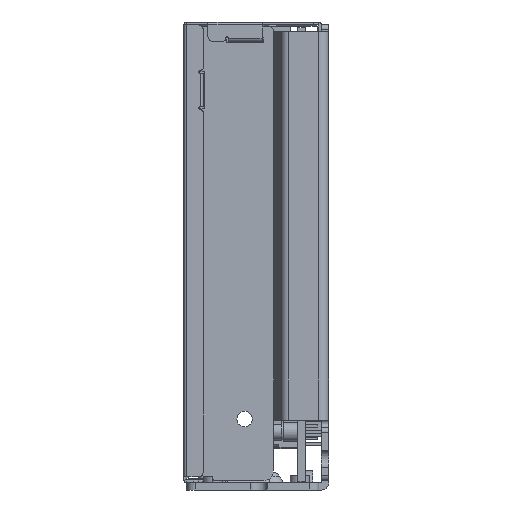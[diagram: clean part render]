
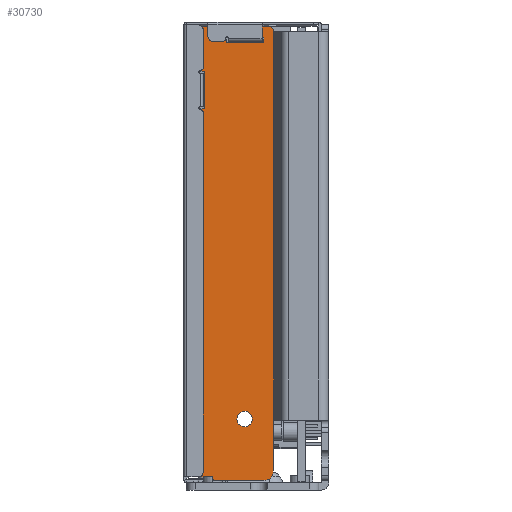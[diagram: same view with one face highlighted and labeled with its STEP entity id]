
A CAD part, left-side view. The second image highlights one B-rep face of the part: STEP entity #30730.
In plain terms, the highlighted planar face has unit normal (-1, 0, 0).
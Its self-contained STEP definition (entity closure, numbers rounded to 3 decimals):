
#7155=DIRECTION('',(0.,0.,1.));
#7156=VECTOR('',#7155,80.5);
#7157=CARTESIAN_POINT('',(-57.5,11.414,-33.75));
#7158=LINE('',#7157,#7156);
#7227=CARTESIAN_POINT('',(-57.5,23.6,-45.75));
#7228=DIRECTION('',(1.,0.,0.));
#7229=DIRECTION('',(0.,0.,-1.));
#7230=AXIS2_PLACEMENT_3D('',#7227,#7228,#7229);
#7235=DIRECTION('',(0.,1.,0.));
#7236=VECTOR('',#7235,3.);
#7237=CARTESIAN_POINT('',(-57.5,24.1,-45.55));
#7238=LINE('',#7237,#7236);
#7242=CARTESIAN_POINT('',(-57.5,27.1,-43.55));
#7243=DIRECTION('',(1.,0.,0.));
#7244=DIRECTION('',(0.,0.,-1.));
#7245=AXIS2_PLACEMENT_3D('',#7242,#7243,#7244);
#7250=DIRECTION('',(0.,0.,1.));
#7251=VECTOR('',#7250,89.4);
#7252=CARTESIAN_POINT('',(-57.5,29.1,-43.55));
#7253=LINE('',#7252,#7251);
#7257=CARTESIAN_POINT('',(-57.5,27.1,45.85));
#7258=DIRECTION('',(1.,0.,0.));
#7259=DIRECTION('',(0.,1.,0.));
#7260=AXIS2_PLACEMENT_3D('',#7257,#7258,#7259);
#7265=DIRECTION('',(0.,-1.,0.));
#7266=VECTOR('',#7265,14.686);
#7267=CARTESIAN_POINT('',(-57.5,27.1,47.85));
#7268=LINE('',#7267,#7266);
#7272=CARTESIAN_POINT('',(-57.5,12.414,46.85));
#7273=DIRECTION('',(1.,0.,0.));
#7274=DIRECTION('',(0.,0.,1.));
#7275=AXIS2_PLACEMENT_3D('',#7272,#7273,#7274);
#7280=DIRECTION('',(0.,0.,-1.));
#7281=VECTOR('',#7280,0.1);
#7282=CARTESIAN_POINT('',(-57.5,11.414,46.85));
#7283=LINE('',#7282,#7281);
#7287=DIRECTION('',(0.,0.,-1.));
#7288=VECTOR('',#7287,10.5);
#7289=CARTESIAN_POINT('',(-57.5,11.414,-33.75));
#7290=LINE('',#7289,#7288);
#7294=CARTESIAN_POINT('',(-57.5,13.414,-44.25));
#7295=DIRECTION('',(1.,0.,0.));
#7296=DIRECTION('',(0.,-1.,0.));
#7297=AXIS2_PLACEMENT_3D('',#7294,#7295,#7296);
#7302=DIRECTION('',(0.,0.,-1.));
#7303=VECTOR('',#7302,7.8);
#7304=CARTESIAN_POINT('',(-57.5,26.7,38.55));
#7305=LINE('',#7304,#7303);
#7309=DIRECTION('',(0.,-1.,0.));
#7310=VECTOR('',#7309,1.);
#7311=CARTESIAN_POINT('',(-57.5,26.7,30.75));
#7312=LINE('',#7311,#7310);
#7316=DIRECTION('',(0.,0.,1.));
#7317=VECTOR('',#7316,7.8);
#7318=CARTESIAN_POINT('',(-57.5,25.7,30.75));
#7319=LINE('',#7318,#7317);
#7323=DIRECTION('',(0.,1.,0.));
#7324=VECTOR('',#7323,1.);
#7325=CARTESIAN_POINT('',(-57.5,25.7,38.55));
#7326=LINE('',#7325,#7324);
#7330=DIRECTION('',(0.,0.,-1.));
#7331=VECTOR('',#7330,1.);
#7332=CARTESIAN_POINT('',(-57.5,21.2,45.45));
#7333=LINE('',#7332,#7331);
#7337=DIRECTION('',(0.,-1.,0.));
#7338=VECTOR('',#7337,7.8);
#7339=CARTESIAN_POINT('',(-57.5,21.2,44.45));
#7340=LINE('',#7339,#7338);
#7344=DIRECTION('',(0.,0.,1.));
#7345=VECTOR('',#7344,1.);
#7346=CARTESIAN_POINT('',(-57.5,13.4,44.45));
#7347=LINE('',#7346,#7345);
#7351=DIRECTION('',(0.,1.,0.));
#7352=VECTOR('',#7351,7.8);
#7353=CARTESIAN_POINT('',(-57.5,13.4,45.45));
#7354=LINE('',#7353,#7352);
#7358=CARTESIAN_POINT('',(-57.5,17.4,-33.55));
#7359=DIRECTION('',(-1.,0.,0.));
#7360=DIRECTION('',(0.,0.,-1.));
#7361=AXIS2_PLACEMENT_3D('',#7358,#7359,#7360);
#7366=CARTESIAN_POINT('',(-57.5,17.4,-33.55));
#7367=DIRECTION('',(-1.,0.,0.));
#7368=DIRECTION('',(0.,0.,1.));
#7369=AXIS2_PLACEMENT_3D('',#7366,#7367,#7368);
#7388=DIRECTION('',(0.,-1.,0.));
#7389=VECTOR('',#7388,10.186);
#7390=CARTESIAN_POINT('',(-57.5,23.6,-46.25));
#7391=LINE('',#7390,#7389);
#7542=DIRECTION('',(0.,0.,-1.));
#7543=VECTOR('',#7542,0.2);
#7544=CARTESIAN_POINT('',(-57.5,24.1,-45.55));
#7545=LINE('',#7544,#7543);
#24312=CARTESIAN_POINT('',(-57.5,11.414,46.75));
#24313=VERTEX_POINT('',#24312);
#24314=CARTESIAN_POINT('',(-57.5,11.414,-33.75));
#24315=VERTEX_POINT('',#24314);
#24316=CARTESIAN_POINT('',(-57.5,11.414,-44.25));
#24318=VERTEX_POINT('',#24316);
#24320=CARTESIAN_POINT('',(-57.5,13.414,-46.25));
#24321=VERTEX_POINT('',#24320);
#24324=CARTESIAN_POINT('',(-57.5,23.6,-46.25));
#24325=CARTESIAN_POINT('',(-57.5,24.1,-45.75));
#24326=VERTEX_POINT('',#24324);
#24327=VERTEX_POINT('',#24325);
#24328=CARTESIAN_POINT('',(-57.5,24.1,-45.55));
#24329=VERTEX_POINT('',#24328);
#24330=CARTESIAN_POINT('',(-57.5,27.1,-45.55));
#24331=VERTEX_POINT('',#24330);
#24332=CARTESIAN_POINT('',(-57.5,29.1,-43.55));
#24333=VERTEX_POINT('',#24332);
#24334=CARTESIAN_POINT('',(-57.5,29.1,45.85));
#24335=VERTEX_POINT('',#24334);
#24336=CARTESIAN_POINT('',(-57.5,27.1,47.85));
#24337=VERTEX_POINT('',#24336);
#24338=CARTESIAN_POINT('',(-57.5,12.414,47.85));
#24339=VERTEX_POINT('',#24338);
#24340=CARTESIAN_POINT('',(-57.5,11.414,46.85));
#24341=VERTEX_POINT('',#24340);
#24342=CARTESIAN_POINT('',(-57.5,26.7,38.55));
#24343=CARTESIAN_POINT('',(-57.5,26.7,30.75));
#24344=VERTEX_POINT('',#24342);
#24345=VERTEX_POINT('',#24343);
#24346=CARTESIAN_POINT('',(-57.5,25.7,30.75));
#24347=VERTEX_POINT('',#24346);
#24348=CARTESIAN_POINT('',(-57.5,25.7,38.55));
#24349=VERTEX_POINT('',#24348);
#24350=CARTESIAN_POINT('',(-57.5,21.2,45.45));
#24351=CARTESIAN_POINT('',(-57.5,21.2,44.45));
#24352=VERTEX_POINT('',#24350);
#24353=VERTEX_POINT('',#24351);
#24354=CARTESIAN_POINT('',(-57.5,13.4,44.45));
#24355=VERTEX_POINT('',#24354);
#24356=CARTESIAN_POINT('',(-57.5,13.4,45.45));
#24357=VERTEX_POINT('',#24356);
#24358=CARTESIAN_POINT('',(-57.5,17.4,-35.15));
#24359=CARTESIAN_POINT('',(-57.5,17.4,-31.95));
#24360=VERTEX_POINT('',#24358);
#24361=VERTEX_POINT('',#24359);
#30674=CARTESIAN_POINT('',(-57.5,11.414,-46.25));
#30675=DIRECTION('',(1.,0.,0.));
#30676=DIRECTION('',(0.,1.,0.));
#30677=AXIS2_PLACEMENT_3D('',#30674,#30675,#30676);
#30678=PLANE('',#30677);
#30680=ORIENTED_EDGE('',*,*,#30679,.T.);
#30682=ORIENTED_EDGE('',*,*,#30681,.F.);
#30684=ORIENTED_EDGE('',*,*,#30683,.T.);
#30686=ORIENTED_EDGE('',*,*,#30685,.T.);
#30688=ORIENTED_EDGE('',*,*,#30687,.T.);
#30690=ORIENTED_EDGE('',*,*,#30689,.T.);
#30692=ORIENTED_EDGE('',*,*,#30691,.T.);
#30694=ORIENTED_EDGE('',*,*,#30693,.T.);
#30696=ORIENTED_EDGE('',*,*,#30695,.T.);
#30697=ORIENTED_EDGE('',*,*,#30624,.F.);
#30698=ORIENTED_EDGE('',*,*,#30651,.T.);
#30699=ORIENTED_EDGE('',*,*,#30664,.T.);
#30701=ORIENTED_EDGE('',*,*,#30700,.F.);
#30702=EDGE_LOOP('',(#30680,#30682,#30684,#30686,#30688,#30690,#30692,#30694,
#30696,#30697,#30698,#30699,#30701));
#30703=FACE_OUTER_BOUND('',#30702,.F.);
#30705=ORIENTED_EDGE('',*,*,#30704,.T.);
#30707=ORIENTED_EDGE('',*,*,#30706,.T.);
#30709=ORIENTED_EDGE('',*,*,#30708,.T.);
#30711=ORIENTED_EDGE('',*,*,#30710,.T.);
#30712=EDGE_LOOP('',(#30705,#30707,#30709,#30711));
#30713=FACE_BOUND('',#30712,.F.);
#30715=ORIENTED_EDGE('',*,*,#30714,.T.);
#30717=ORIENTED_EDGE('',*,*,#30716,.T.);
#30719=ORIENTED_EDGE('',*,*,#30718,.T.);
#30721=ORIENTED_EDGE('',*,*,#30720,.T.);
#30722=EDGE_LOOP('',(#30715,#30717,#30719,#30721));
#30723=FACE_BOUND('',#30722,.F.);
#30725=ORIENTED_EDGE('',*,*,#30724,.T.);
#30727=ORIENTED_EDGE('',*,*,#30726,.T.);
#30728=EDGE_LOOP('',(#30725,#30727));
#30729=FACE_BOUND('',#30728,.F.);
#7231=CIRCLE('',#7230,0.5);
#7246=CIRCLE('',#7245,2.);
#7261=CIRCLE('',#7260,2.);
#7276=CIRCLE('',#7275,1.);
#7298=CIRCLE('',#7297,2.);
#7362=CIRCLE('',#7361,1.6);
#7370=CIRCLE('',#7369,1.6);
#30624=EDGE_CURVE('',#24315,#24313,#7158,.T.);
#30651=EDGE_CURVE('',#24315,#24318,#7290,.T.);
#30664=EDGE_CURVE('',#24318,#24321,#7298,.T.);
#30679=EDGE_CURVE('',#24326,#24327,#7231,.T.);
#30681=EDGE_CURVE('',#24329,#24327,#7545,.T.);
#30683=EDGE_CURVE('',#24329,#24331,#7238,.T.);
#30685=EDGE_CURVE('',#24331,#24333,#7246,.T.);
#30687=EDGE_CURVE('',#24333,#24335,#7253,.T.);
#30689=EDGE_CURVE('',#24335,#24337,#7261,.T.);
#30691=EDGE_CURVE('',#24337,#24339,#7268,.T.);
#30693=EDGE_CURVE('',#24339,#24341,#7276,.T.);
#30695=EDGE_CURVE('',#24341,#24313,#7283,.T.);
#30700=EDGE_CURVE('',#24326,#24321,#7391,.T.);
#30704=EDGE_CURVE('',#24344,#24345,#7305,.T.);
#30706=EDGE_CURVE('',#24345,#24347,#7312,.T.);
#30708=EDGE_CURVE('',#24347,#24349,#7319,.T.);
#30710=EDGE_CURVE('',#24349,#24344,#7326,.T.);
#30714=EDGE_CURVE('',#24352,#24353,#7333,.T.);
#30716=EDGE_CURVE('',#24353,#24355,#7340,.T.);
#30718=EDGE_CURVE('',#24355,#24357,#7347,.T.);
#30720=EDGE_CURVE('',#24357,#24352,#7354,.T.);
#30724=EDGE_CURVE('',#24360,#24361,#7362,.T.);
#30726=EDGE_CURVE('',#24361,#24360,#7370,.T.);
#30730=ADVANCED_FACE('',(#30703,#30713,#30723,#30729),#30678,.F.);
